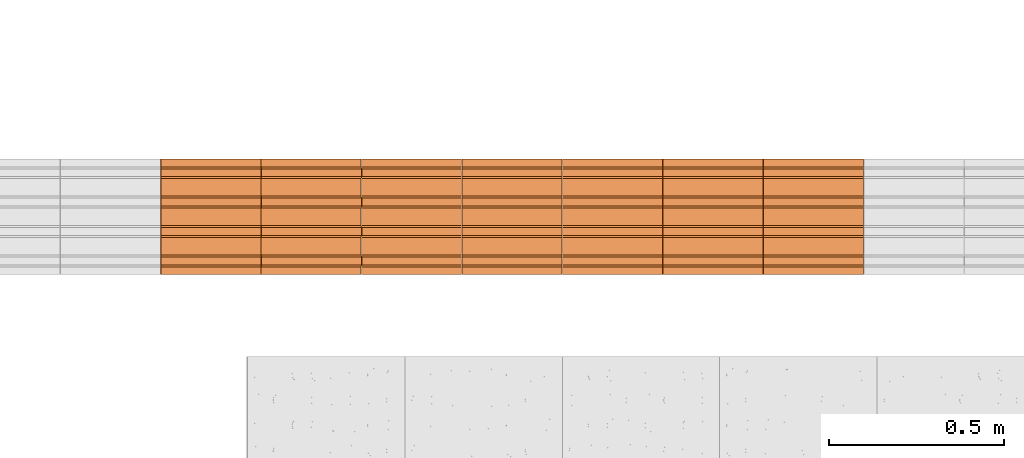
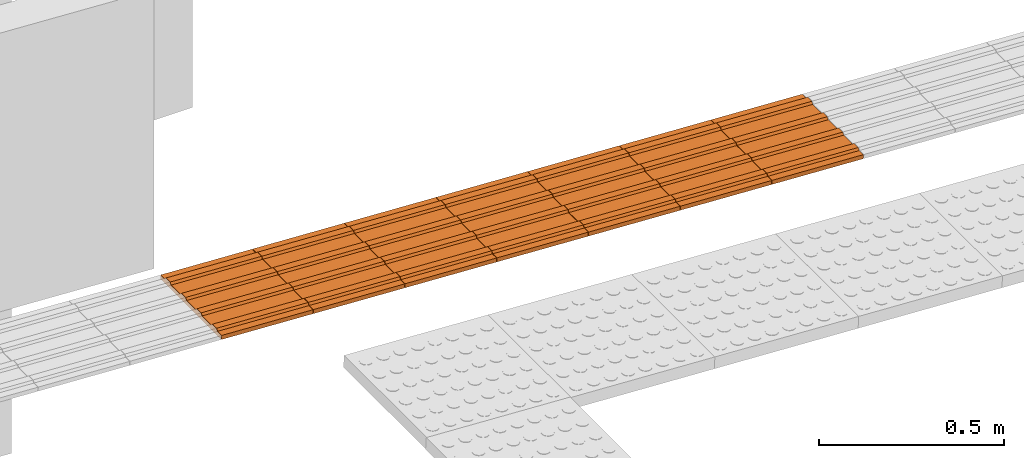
# One storey, part 188 of 237: 7 proxies.
"""IFC2X3 building model written with IfcOpenShell, lengths in millimetres."""

from ifc_helpers import new_model, entity, si_unit, converted_unit, derived_unit, money_unit, direction, frame, origin_with_axes, place, context, subcontext, project, spatial, open_shell, surface_model, source, transform, mapped, type_object, element, save


model = new_model("IFC2X3")

# Units and contexts
model_context = context("Model", 3, precision=0.01, world=origin_with_axes(), true_north=direction((0.0, 1.0)))
body_context = subcontext(model_context, "Body", "Model", "MODEL_VIEW")
ifc_project = project(units=[si_unit("LENGTHUNIT", "METRE", prefix="MILLI"), si_unit("AREAUNIT", "SQUARE_METRE"), si_unit("VOLUMEUNIT", "CUBIC_METRE"), converted_unit("PLANEANGLEUNIT", "DEGREE", entity("IfcPlaneAngleMeasure", 0.0174532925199), si_unit("PLANEANGLEUNIT", "RADIAN"), dimensions=[0, 0, 0, 0, 0, 0, 0]), money_unit("USD"), converted_unit("TIMEUNIT", "Year", entity("IfcTimeMeasure", 31556926.0), si_unit("TIMEUNIT", "SECOND"), dimensions=[0, 0, 1, 0, 0, 0, 0]), si_unit("MASSUNIT", "GRAM", prefix="KILO"), si_unit("THERMODYNAMICTEMPERATUREUNIT", "DEGREE_CELSIUS"), si_unit("LUMINOUSINTENSITYUNIT", "LUMEN"), si_unit("ENERGYUNIT", "JOULE", prefix="MEGA"), derived_unit("THERMALCONDUCTANCEUNIT", [(si_unit("POWERUNIT", "WATT"), 1), (si_unit("LENGTHUNIT", "METRE"), -1), (si_unit("THERMODYNAMICTEMPERATUREUNIT", "KELVIN"), -1)]), derived_unit("SPECIFICHEATCAPACITYUNIT", [(si_unit("ENERGYUNIT", "JOULE"), 1), (si_unit("MASSUNIT", "GRAM", prefix="KILO"), -1), (si_unit("THERMODYNAMICTEMPERATUREUNIT", "KELVIN"), -1)]), derived_unit("MASSDENSITYUNIT", [(si_unit("MASSUNIT", "GRAM", prefix="KILO"), 1), (si_unit("VOLUMEUNIT", "CUBIC_METRE"), -1)])], contexts=[model_context])

# Site, building, storey
site_placement = place(None, origin_with_axes())
site = spatial("IfcSite", under=ifc_project, at=site_placement, Name="Local", CompositionType="ELEMENT")
building_placement = place(site_placement, origin_with_axes())
building = spatial("IfcBuilding", under=site, at=building_placement, Name="Construção", CompositionType="ELEMENT")
storey_placement = place(building_placement, origin_with_axes())
storey = spatial("IfcBuildingStorey", under=building, at=storey_placement, Name="Pavimento Térreo", CompositionType="ELEMENT", Elevation=0.0)

# Proxies
building_element_proxy_type = type_object("IfcBuildingElementProxyType", Name="Piso Direcional 27", PredefinedType="NOTDEFINED")
shared_shape = source(origin_with_axes(), body_context, "Body", "SurfaceModel", [
    surface_model("IfcShellBasedSurfaceModel", [(-0.210134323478, -47.258225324, 4.02303628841), (285.108160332, -47.258225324, 18.9260007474), (284.760415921, -41.665004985, 25.5835917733), (-0.557878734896, -41.665004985, 10.6806273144)], [open_shell([[[0, 1, 2, 3]]])]),
    surface_model("IfcShellBasedSurfaceModel", [(285.803649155, -153.529411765, 5.61081869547), (285.803649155, 176.470588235, 5.61081869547), (285.108160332, 176.470588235, 18.9260007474), (285.108160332, 154.097706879, 18.9260007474), (284.760415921, 148.50448654, 25.5835917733), (284.760415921, 126.131605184, 25.5835917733), (285.108160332, 120.538384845, 18.9260007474), (285.108160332, 70.1994017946, 18.9260007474), (284.760415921, 64.6061814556, 25.5835917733), (284.760415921, 42.2333000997, 25.5835917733), (285.108160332, 36.6400797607, 18.9260007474), (285.108160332, -13.6989032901, 18.9260007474), (284.760415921, -19.2921236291, 25.5835917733), (284.760415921, -41.665004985, 25.5835917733), (285.108160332, -47.258225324, 18.9260007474), (285.108160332, -97.5972083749, 18.9260007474), (284.760415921, -103.190428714, 25.5835917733), (284.760415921, -125.56331007, 25.5835917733), (285.108160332, -131.156530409, 18.9260007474), (285.108160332, -153.529411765, 18.9260007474)], [open_shell([[[0, 1, 2, 3, 4, 5, 6, 7, 8, 9, 10, 11, 12, 13, 14, 15, 16, 17, 18, 19]]])]),
    surface_model("IfcShellBasedSurfaceModel", [(-0.557878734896, -19.2921236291, 10.6806273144), (284.760415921, -19.2921236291, 25.5835917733), (285.108160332, -13.6989032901, 18.9260007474), (-0.210134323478, -13.6989032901, 4.02303628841)], [open_shell([[[0, 1, 2, 3]]])]),
    surface_model("IfcShellBasedSurfaceModel", [(-0.557878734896, -103.190428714, 10.6806273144), (284.760415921, -103.190428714, 25.5835917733), (285.108160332, -97.5972083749, 18.9260007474), (-0.210134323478, -97.5972083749, 4.02303628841)], [open_shell([[[0, 1, 2, 3]]])]),
    surface_model("IfcShellBasedSurfaceModel", [(-0.557878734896, 64.6061814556, 10.6806273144), (284.760415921, 64.6061814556, 25.5835917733), (285.108160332, 70.1994017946, 18.9260007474), (-0.210134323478, 70.1994017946, 4.02303628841)], [open_shell([[[0, 1, 2, 3]]])]),
    surface_model("IfcShellBasedSurfaceModel", [(-0.210134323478, 36.6400797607, 4.02303628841), (285.108160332, 36.6400797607, 18.9260007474), (284.760415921, 42.2333000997, 25.5835917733), (-0.557878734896, 42.2333000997, 10.6806273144)], [open_shell([[[0, 1, 2, 3]]])]),
    surface_model("IfcShellBasedSurfaceModel", [(-0.210134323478, -131.156530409, 4.02303628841), (285.108160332, -131.156530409, 18.9260007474), (284.760415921, -125.56331007, 25.5835917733), (-0.557878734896, -125.56331007, 10.6806273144)], [open_shell([[[0, 1, 2, 3]]])]),
    surface_model("IfcShellBasedSurfaceModel", [(-0.210134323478, 176.470588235, 4.02303628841), (-0.210134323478, 154.097706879, 4.02303628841), (285.108160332, 154.097706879, 18.9260007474), (285.108160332, 176.470588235, 18.9260007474)], [open_shell([[[0, 1, 2, 3]]])]),
    surface_model("IfcShellBasedSurfaceModel", [(-0.210134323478, 120.538384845, 4.02303628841), (285.108160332, 120.538384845, 18.9260007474), (284.760415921, 126.131605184, 25.5835917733), (-0.557878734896, 126.131605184, 10.6806273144)], [open_shell([[[0, 1, 2, 3]]])]),
    surface_model("IfcShellBasedSurfaceModel", [(-0.557878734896, 148.50448654, 10.6806273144), (284.760415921, 148.50448654, 25.5835917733), (285.108160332, 154.097706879, 18.9260007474), (-0.210134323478, 154.097706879, 4.02303628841)], [open_shell([[[0, 1, 2, 3]]])]),
    surface_model("IfcShellBasedSurfaceModel", [(-0.210134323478, 36.6400797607, 4.02303628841), (-0.210134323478, -13.6989032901, 4.02303628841), (285.108160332, -13.6989032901, 18.9260007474), (285.108160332, 36.6400797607, 18.9260007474)], [open_shell([[[0, 1, 2, 3]]])]),
    surface_model("IfcShellBasedSurfaceModel", [(-0.210134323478, 120.538384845, 4.02303628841), (-0.210134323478, 70.1994017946, 4.02303628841), (285.108160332, 70.1994017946, 18.9260007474), (285.108160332, 120.538384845, 18.9260007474)], [open_shell([[[0, 1, 2, 3]]])]),
    surface_model("IfcShellBasedSurfaceModel", [(-0.557878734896, 148.50448654, 10.6806273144), (-0.557878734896, 126.131605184, 10.6806273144), (284.760415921, 126.131605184, 25.5835917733), (284.760415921, 148.50448654, 25.5835917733)], [open_shell([[[0, 1, 2, 3]]])]),
    surface_model("IfcShellBasedSurfaceModel", [(-0.210134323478, 120.538384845, 4.02303628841), (-0.557878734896, 126.131605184, 10.6806273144), (-0.557878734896, 148.50448654, 10.6806273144), (-0.210134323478, 154.097706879, 4.02303628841), (-0.210134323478, 176.470588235, 4.02303628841), (0.48535449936, 176.470588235, -9.29214576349), (0.48535449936, -153.529411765, -9.29214576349), (-0.210134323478, -153.529411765, 4.02303628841), (-0.210134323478, -131.156530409, 4.02303628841), (-0.557878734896, -125.56331007, 10.6806273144), (-0.557878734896, -103.190428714, 10.6806273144), (-0.210134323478, -97.5972083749, 4.02303628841), (-0.210134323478, -47.258225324, 4.02303628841), (-0.557878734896, -41.665004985, 10.6806273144), (-0.557878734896, -19.2921236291, 10.6806273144), (-0.210134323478, -13.6989032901, 4.02303628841), (-0.210134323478, 36.6400797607, 4.02303628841), (-0.557878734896, 42.2333000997, 10.6806273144), (-0.557878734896, 64.6061814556, 10.6806273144), (-0.210134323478, 70.1994017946, 4.02303628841)], [open_shell([[[0, 1, 2, 3, 4, 5, 6, 7, 8, 9, 10, 11, 12, 13, 14, 15, 16, 17, 18, 19]]])]),
    surface_model("IfcShellBasedSurfaceModel", [(284.760415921, -41.665004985, 25.5835917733), (284.760415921, -19.2921236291, 25.5835917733), (-0.557878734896, -19.2921236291, 10.6806273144), (-0.557878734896, -41.665004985, 10.6806273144)], [open_shell([[[0, 1, 2, 3]]])]),
    surface_model("IfcShellBasedSurfaceModel", [(-0.210134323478, -47.258225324, 4.02303628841), (-0.210134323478, -97.5972083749, 4.02303628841), (285.108160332, -97.5972083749, 18.9260007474), (285.108160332, -47.258225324, 18.9260007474)], [open_shell([[[0, 1, 2, 3]]])]),
    surface_model("IfcShellBasedSurfaceModel", [(284.760415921, 42.2333000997, 25.5835917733), (284.760415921, 64.6061814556, 25.5835917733), (-0.557878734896, 64.6061814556, 10.6806273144), (-0.557878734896, 42.2333000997, 10.6806273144)], [open_shell([[[0, 1, 2, 3]]])]),
    surface_model("IfcShellBasedSurfaceModel", [(284.760415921, -125.56331007, 25.5835917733), (284.760415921, -103.190428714, 25.5835917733), (-0.557878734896, -103.190428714, 10.6806273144), (-0.557878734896, -125.56331007, 10.6806273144)], [open_shell([[[0, 1, 2, 3]]])]),
    surface_model("IfcShellBasedSurfaceModel", [(285.803649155, 176.470588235, 5.61081869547), (0.48535449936, 176.470588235, -9.29214576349), (-0.210134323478, 176.470588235, 4.02303628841), (285.108160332, 176.470588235, 18.9260007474)], [open_shell([[[0, 1, 2, 3]]])]),
    surface_model("IfcShellBasedSurfaceModel", [(285.803649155, -153.529411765, 5.61081869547), (0.48535449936, -153.529411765, -9.29214576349), (0.48535449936, 176.470588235, -9.29214576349), (285.803649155, 176.470588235, 5.61081869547)], [open_shell([[[0, 1, 2, 3]]])]),
    surface_model("IfcShellBasedSurfaceModel", [(285.108160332, -153.529411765, 18.9260007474), (285.108160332, -131.156530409, 18.9260007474), (-0.210134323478, -131.156530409, 4.02303628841), (-0.210134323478, -153.529411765, 4.02303628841)], [open_shell([[[0, 1, 2, 3]]])]),
    surface_model("IfcShellBasedSurfaceModel", [(0.48535449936, -153.529411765, -9.29214576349), (285.803649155, -153.529411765, 5.61081869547), (285.108160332, -153.529411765, 18.9260007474), (-0.210134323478, -153.529411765, 4.02303628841)], [open_shell([[[0, 1, 2, 3]]])]),
])
for number, where, z_axis, x_axis, name in (
    (1, (121875.776456, 10834.0941893, -7310.11017095), (0.0, 0.0, 1.0), (-1.0, 0.0, 0.0), "Objeto-0055"),
    (2, (121589.171913, 10834.0941893, -7295.14002215), (0.0, 0.0, 1.0), (-1.0, 0.0, 0.0), "Objeto-0055"),
    (3, (121302.567369, 10834.0941893, -7280.16987336), (0.0, 0.0, 1.0), (-1.0, 0.0, 0.0), "Objeto-0055"),
    (4, (121015.962826, 10834.0941893, -7265.19972456), (0.0, 0.0, 1.0), (-1.0, 0.0, 0.0), "Objeto-0055"),
    (5, (120729.358282, 10834.0941893, -7250.22957577), (0.0, 0.0, 1.0), (-1.0, 0.0, 0.0), "Objeto-0055"),
    (6, (120442.753739, 10834.0941893, -7235.25942697), (0.0, 0.0, 1.0), (-1.0, 0.0, 0.0), "Objeto-0055"),
    (7, (120156.149196, 10834.0941893, -7220.28927818), (0.0, 0.0, 1.0), (-1.0, 0.0, 0.0), "Objeto-0055"),
):
    element("IfcBuildingElementProxy", number, at=place(storey_placement, frame(where, z_axis=z_axis, x_axis=x_axis)), inside=storey, type_object=building_element_proxy_type, Name=name, context=body_context, shape_type="MappedRepresentation", body=[
        mapped(shared_shape, transform((0.0, 0.0, 0.0))),
    ])

save(model, "model.ifc")
